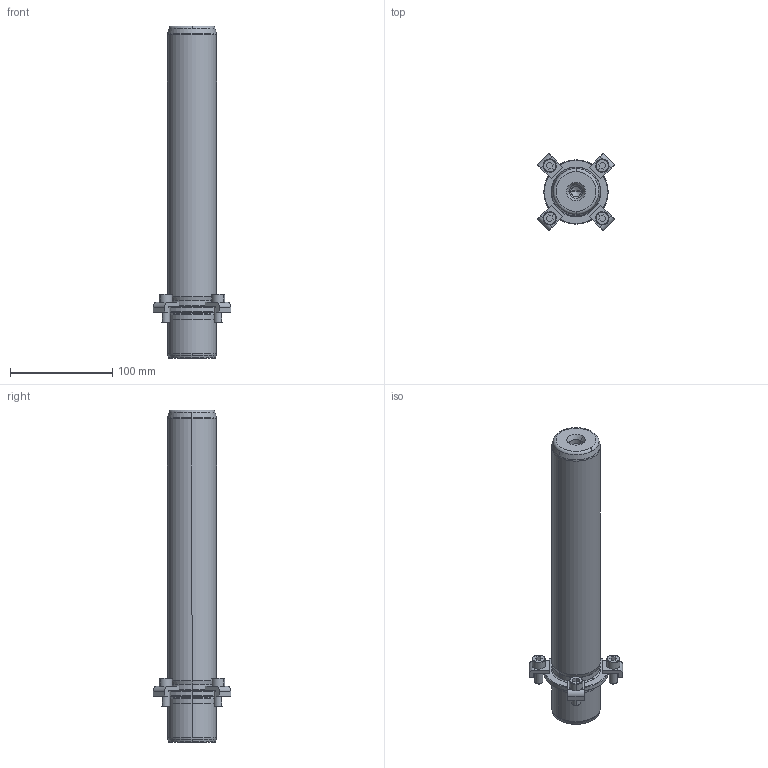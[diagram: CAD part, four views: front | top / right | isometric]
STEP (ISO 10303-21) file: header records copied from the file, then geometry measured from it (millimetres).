
FILE_DESCRIPTION((''),'2;1');
FILE_NAME('P21_048_280.stp','2008-12-23T13:39:49',(''),(''),'Mechanical Desktop 2009','Mechanical Desktop 2009',', , ');
FILE_SCHEMA(('CONFIG_CONTROL_DESIGN'));
Length unit declared in the file: millimetre
Products named in the file (2): Product; blmdl1
Assembly tree (1 placements, depth 2):
  Product
    blmdl1
Bounding box: 76.01 x 76.01 x 325 mm (x, y, z)
Volume: 597178.2 mm3; surface area: 66424.6 mm2
Topology: 9 solids, 9 shells, 195 faces, 477 edges, 309 vertices
Faces by surface type: plane 77, cylinder 52, cone 34, torus 16, bspline 16
Entity records: 6547 total; most frequent: CARTESIAN_POINT 1683, DIRECTION 1078, ORIENTED_EDGE 946, EDGE_CURVE 473, AXIS2_PLACEMENT_3D 424, VERTEX_POINT 309, CIRCLE 243, VECTOR 230
